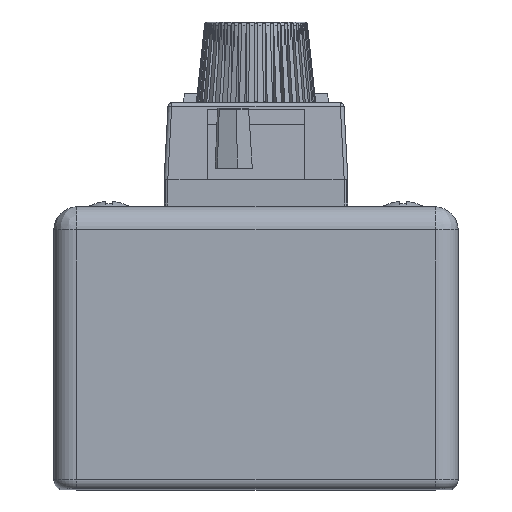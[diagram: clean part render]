
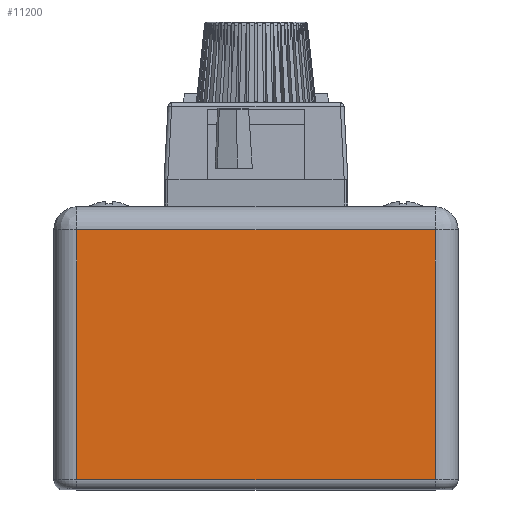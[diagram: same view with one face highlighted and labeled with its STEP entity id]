
A CAD part, top view. The second image highlights one B-rep face of the part: STEP entity #11200.
In plain terms, the highlighted planar face has unit normal (0, 0, 1).
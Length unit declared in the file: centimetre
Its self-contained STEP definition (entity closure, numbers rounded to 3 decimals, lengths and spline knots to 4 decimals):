
#764=LINE('',#16664,#1717);
#765=LINE('',#16670,#1718);
#766=LINE('',#16671,#1719);
#767=LINE('',#16672,#1720);
#1717=VECTOR('',#13519,100.);
#1718=VECTOR('',#13526,100.);
#1719=VECTOR('',#13527,100.);
#1720=VECTOR('',#13528,100.);
#2630=PLANE('',#12009);
#3400=FACE_OUTER_BOUND('',#4122,.T.);
#4122=EDGE_LOOP('',(#8321,#8322,#8323,#8324));
#5359=VERTEX_POINT('',#16662);
#5360=VERTEX_POINT('',#16663);
#5361=VERTEX_POINT('',#16668);
#5362=VERTEX_POINT('',#16669);
#6492=EDGE_CURVE('',#5359,#5360,#764,.T.);
#6495=EDGE_CURVE('',#5361,#5362,#765,.T.);
#6496=EDGE_CURVE('',#5362,#5360,#766,.T.);
#6497=EDGE_CURVE('',#5359,#5361,#767,.T.);
#8321=ORIENTED_EDGE('',*,*,#6495,.T.);
#8322=ORIENTED_EDGE('',*,*,#6496,.T.);
#8323=ORIENTED_EDGE('',*,*,#6492,.F.);
#8324=ORIENTED_EDGE('',*,*,#6497,.T.);
#11200=ADVANCED_FACE('',(#3400),#2630,.F.);
#12009=AXIS2_PLACEMENT_3D('',#16667,#13524,#13525);
#13519=DIRECTION('',(0.,-1.,0.));
#13524=DIRECTION('center_axis',(0.,0.,-1.));
#13525=DIRECTION('ref_axis',(-1.,0.,0.));
#13526=DIRECTION('',(0.,-1.,0.));
#13527=DIRECTION('',(1.,0.,0.));
#13528=DIRECTION('',(-1.,0.,0.));
#16662=CARTESIAN_POINT('',(2.286,3.5809,4.191));
#16663=CARTESIAN_POINT('',(2.286,0.127,4.191));
#16664=CARTESIAN_POINT('',(2.286,3.8989,4.191));
#16667=CARTESIAN_POINT('Origin',(-2.667,3.8989,4.191));
#16668=CARTESIAN_POINT('',(-2.667,3.5809,4.191));
#16669=CARTESIAN_POINT('',(-2.667,0.127,4.191));
#16670=CARTESIAN_POINT('',(-2.667,3.8989,4.191));
#16671=CARTESIAN_POINT('',(2.286,0.127,4.191));
#16672=CARTESIAN_POINT('',(-2.667,3.5809,4.191));
